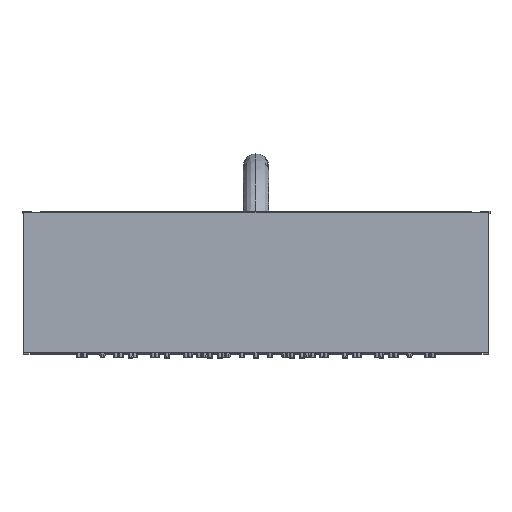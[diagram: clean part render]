
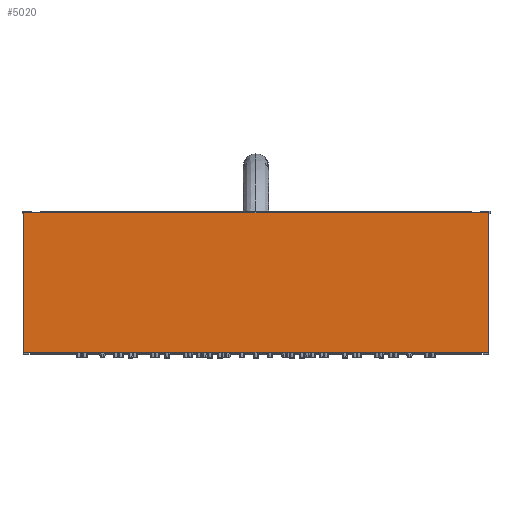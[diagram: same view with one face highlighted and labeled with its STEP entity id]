
A CAD part, top view. The second image highlights one B-rep face of the part: STEP entity #5020.
In plain terms, the highlighted planar face has unit normal (0, 0, 1).
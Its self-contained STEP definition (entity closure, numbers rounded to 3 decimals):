
#1161=DIRECTION('',(0.,-1.,0.));
#1162=VECTOR('',#1161,80.);
#1163=CARTESIAN_POINT('',(-133.,40.,3.));
#1164=LINE('',#1163,#1162);
#1165=DIRECTION('',(-1.,0.,0.));
#1166=VECTOR('',#1165,266.);
#1167=CARTESIAN_POINT('',(133.,40.,3.));
#1168=LINE('',#1167,#1166);
#1169=DIRECTION('',(0.,1.,0.));
#1170=VECTOR('',#1169,80.);
#1171=CARTESIAN_POINT('',(133.,-40.,3.));
#1172=LINE('',#1171,#1170);
#1173=DIRECTION('',(1.,0.,0.));
#1174=VECTOR('',#1173,266.);
#1175=CARTESIAN_POINT('',(-133.,-40.,3.));
#1176=LINE('',#1175,#1174);
#3133=CARTESIAN_POINT('',(-133.,40.,3.));
#3134=CARTESIAN_POINT('',(-133.,-40.,3.));
#3135=VERTEX_POINT('',#3133);
#3136=VERTEX_POINT('',#3134);
#3137=CARTESIAN_POINT('',(133.,-40.,3.));
#3138=VERTEX_POINT('',#3137);
#3139=CARTESIAN_POINT('',(133.,40.,3.));
#3140=VERTEX_POINT('',#3139);
#5008=CARTESIAN_POINT('',(0.,0.,3.));
#5009=DIRECTION('',(0.,0.,1.));
#5010=DIRECTION('',(1.,0.,0.));
#5011=AXIS2_PLACEMENT_3D('',#5008,#5009,#5010);
#5012=PLANE('',#5011);
#5013=ORIENTED_EDGE('',*,*,#4998,.F.);
#5014=ORIENTED_EDGE('',*,*,#4778,.F.);
#5015=ORIENTED_EDGE('',*,*,#4804,.F.);
#5017=ORIENTED_EDGE('',*,*,#5016,.F.);
#5018=EDGE_LOOP('',(#5013,#5014,#5015,#5017));
#5019=FACE_OUTER_BOUND('',#5018,.F.);
#5020=ADVANCED_FACE('',(#5019),#5012,.T.);
#4778=EDGE_CURVE('',#3140,#3135,#1168,.T.);
#4804=EDGE_CURVE('',#3138,#3140,#1172,.T.);
#4998=EDGE_CURVE('',#3135,#3136,#1164,.T.);
#5016=EDGE_CURVE('',#3136,#3138,#1176,.T.);
